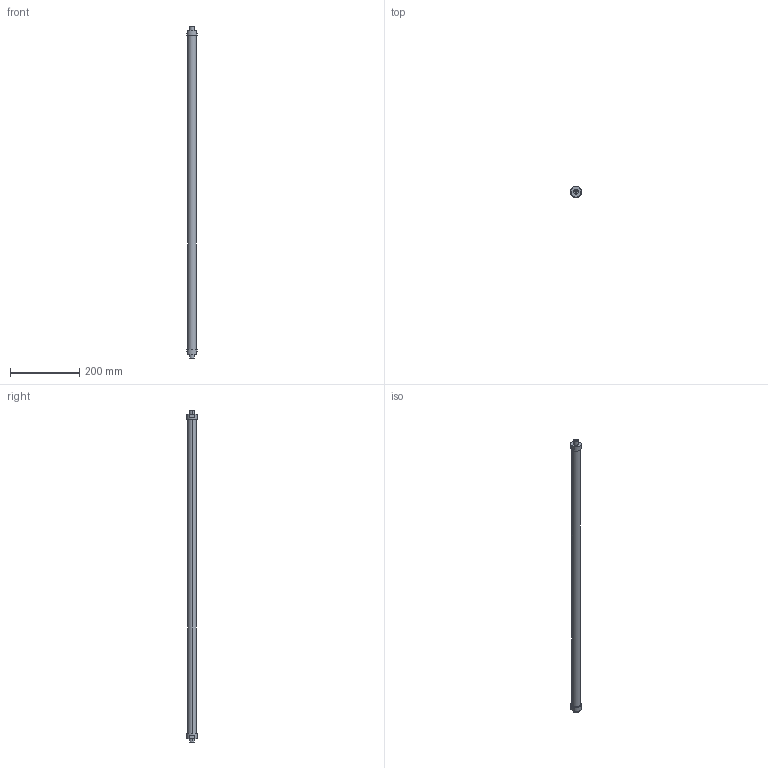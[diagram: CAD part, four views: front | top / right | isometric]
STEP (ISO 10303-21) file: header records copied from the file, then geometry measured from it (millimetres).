
FILE_DESCRIPTION(('STEP AP214'),'1');
FILE_NAME('ETT-R050G944.stp','2015-07-20T08:05:27',(' '),(' '),'Spatial InterOp 3D',' ',' ');
FILE_SCHEMA(('automotive_design'));
Length unit declared in the file: metre
Products named in the file (3): 1; 3; 2
Bounding box: 31 x 31 x 956 mm (x, y, z)
Volume: 441604.4 mm3; surface area: 95364.3 mm2
Topology: 1 solids, 7 shells, 32 faces, 84 edges, 64 vertices
Faces by surface type: cylinder 16, plane 16
Entity records: 1355 total; most frequent: DIRECTION 202, CARTESIAN_POINT 183, ORIENTED_EDGE 144, EDGE_CURVE 84, AXIS2_PLACEMENT_3D 83, VERTEX_POINT 64, CIRCLE 48, EDGE_LOOP 40
